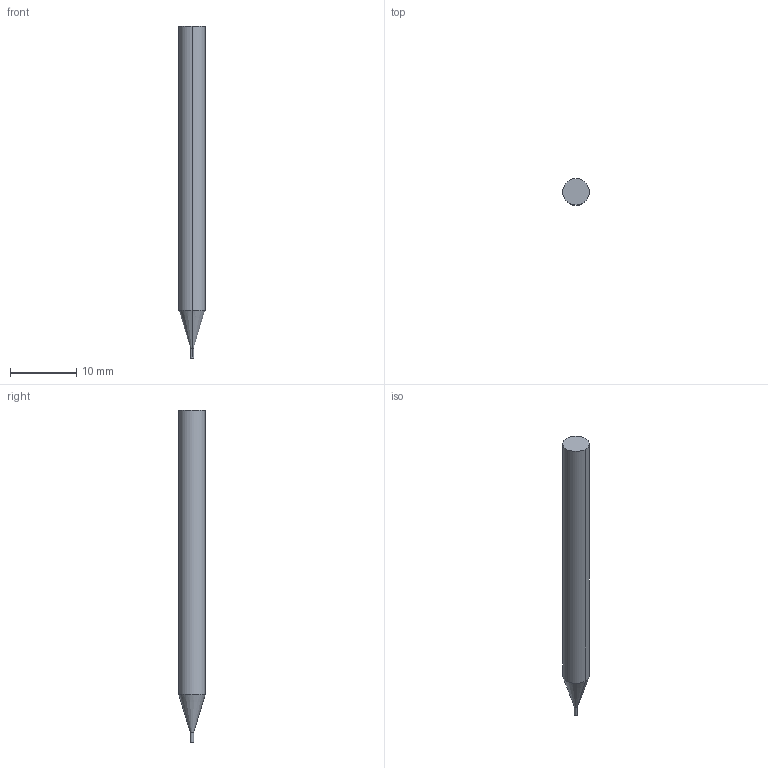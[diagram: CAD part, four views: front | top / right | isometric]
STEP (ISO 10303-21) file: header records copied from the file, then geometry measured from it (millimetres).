
FILE_DESCRIPTION((' '),'2;1');
FILE_NAME( '3MVRM0050AH.stp', '2026-01-21T19:05:51', (' '), ('--- Datakit www.datakit.com---'), ' Datakit CrossCadWare V2025.4 Sep 19 2025', 'Mastercam 2027', ' ');
FILE_SCHEMA(('AUTOMOTIVE_DESIGN { 1 0 10303 214 1 1 1 1 }'));
Length unit declared in the file: inch
Products named in the file (1): 3MVRM0050AH
Bounding box: 4 x 4 x 50 mm (x, y, z)
Volume: 565.3 mm3; surface area: 595 mm2
Topology: 1 solids, 1 shells, 8 faces, 14 edges, 8 vertices
Faces by surface type: cylinder 4, plane 2, cone 2
Entity records: 264 total; most frequent: DIRECTION 48, CARTESIAN_POINT 35, ORIENTED_EDGE 28, AXIS2_PLACEMENT_3D 21, EDGE_CURVE 14, VERTEX_POINT 8, CIRCLE 8, EDGE_LOOP 8
